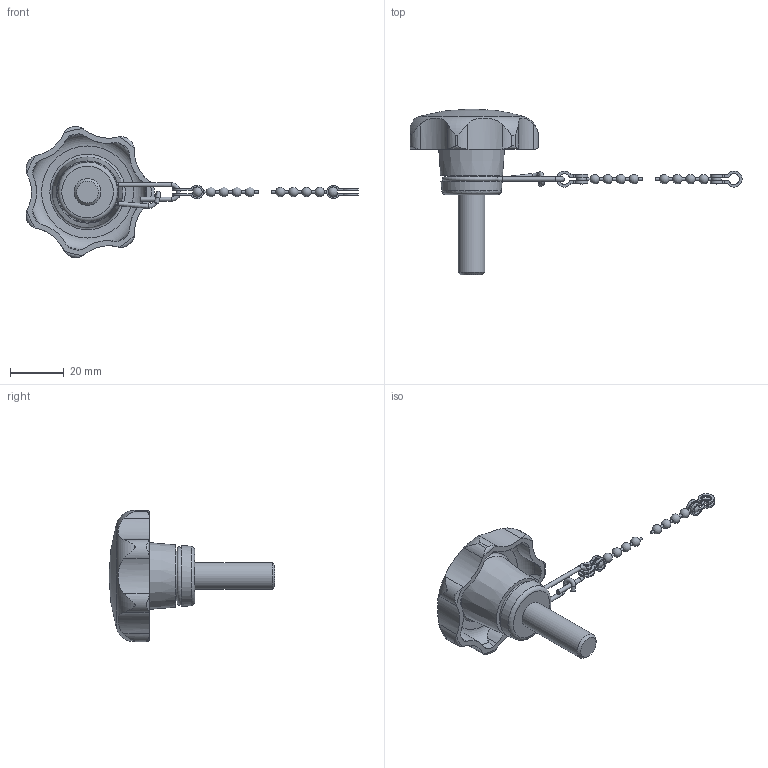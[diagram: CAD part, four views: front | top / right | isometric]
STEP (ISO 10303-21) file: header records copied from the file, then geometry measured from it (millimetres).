
FILE_DESCRIPTION( ( 'STEP AP203' ), '1' );
FILE_NAME( 'C:/Temp/Ganter_Step_05_03_2020/data/2_2/gn_6336_13/gn_6336_13_2/Star knob GN 6336.13-50-M10-30-K.stp', '2020-03-05T12:12:30', ( 'License CC BY-ND 4.0' ), ( 'CADENAS' ), ' ', 'PARTsolutions', ' ' );
FILE_SCHEMA( ( 'CONFIG_CONTROL_DESIGN' ) );
Length unit declared in the file: millimetre
Products named in the file (3): Star knob GN 6336.13-50-M10-30-K; _Star knob GN 6336.13-50-M10-30-K 6; _Star knob GN 111.5-200-14 k2
Assembly tree (2 placements, depth 2):
  Star knob GN 6336.13-50-M10-30-K
    _Star knob GN 6336.13-50-M10-30-K 6
    _Star knob GN 111.5-200-14 k2
Bounding box: 124.03 x 62 x 49 mm (x, y, z)
Volume: 25252 mm3; surface area: 10099.1 mm2
Topology: 2 solids, 2 shells, 163 faces, 466 edges, 300 vertices
Faces by surface type: cylinder 95, plane 28, torus 18, sphere 11, cone 11
Full cylindrical faces by diameter (mm): 0.9 x10, 1.6 x6, 10 x1, 18.5 x1
Entity records: 5930 total; most frequent: CARTESIAN_POINT 1831, DIRECTION 852, ORIENTED_EDGE 802, EDGE_CURVE 401, AXIS2_PLACEMENT_3D 366, VERTEX_POINT 287, EDGE_LOOP 213, CIRCLE 200
